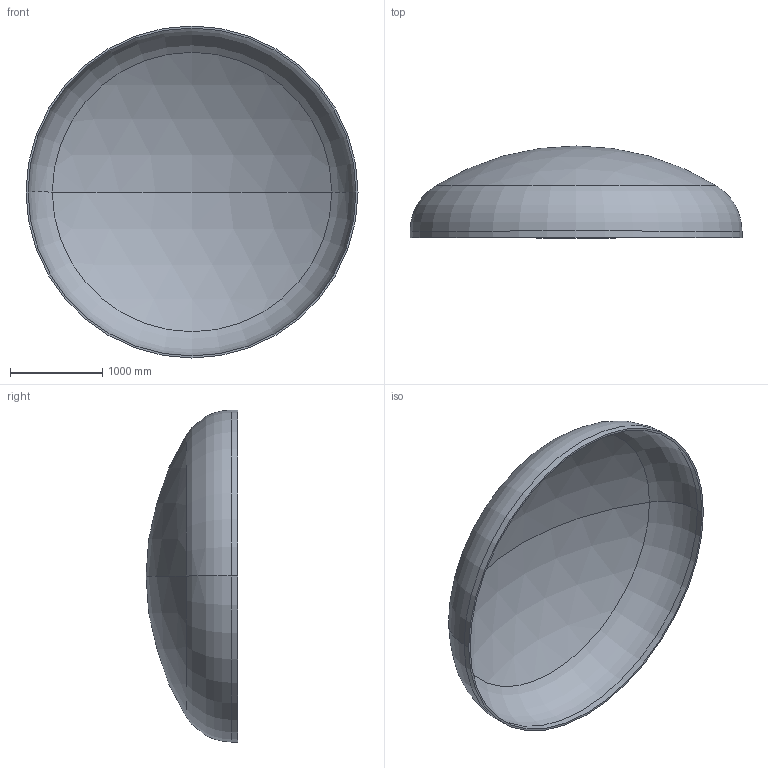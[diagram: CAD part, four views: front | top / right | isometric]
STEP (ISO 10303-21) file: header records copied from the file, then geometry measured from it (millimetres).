
FILE_DESCRIPTION (( 'STEP AP203' ), '1' );
FILE_NAME ('DIN 28013 Korbbogenform_-_Boden DIN 28013 - 3600 x 70 - I - s=22.step', '2016-07-01T20:12:31', ( '' ), ( '' ), 'SwSTEP 2.0', 'SolidWorks 2013', '' );
FILE_SCHEMA (( 'CONFIG_CONTROL_DESIGN' ));
Length unit declared in the file: millimetre
Products named in the file (1): DIN 28013 Korbbogenform_-_Boden DIN 28013 - 3600 x 70 - I - s=22
Bounding box: 3600 x 994.65 x 3600 mm (x, y, z)
Volume: 325029929.2 mm3; surface area: 29796471.2 mm2
Topology: 1 solids, 1 shells, 13 faces, 24 edges, 14 vertices
Faces by surface type: torus 4, cylinder 4, sphere 4, plane 1
Entity records: 407 total; most frequent: DIRECTION 72, CARTESIAN_POINT 52, ORIENTED_EDGE 48, AXIS2_PLACEMENT_3D 34, EDGE_CURVE 24, CIRCLE 20, EDGE_LOOP 14, VERTEX_POINT 14
